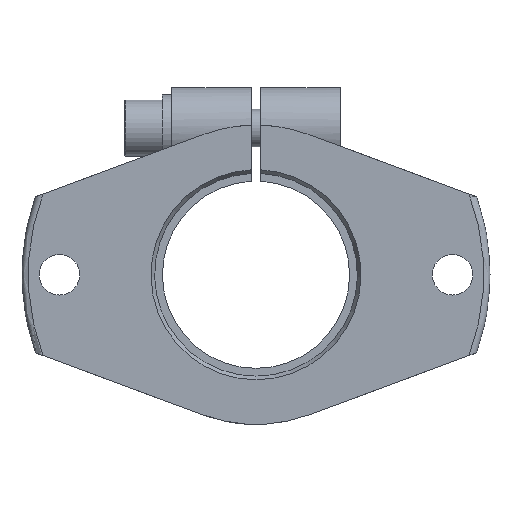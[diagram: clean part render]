
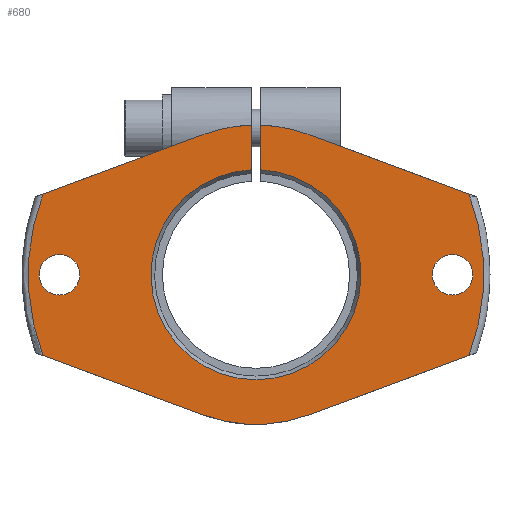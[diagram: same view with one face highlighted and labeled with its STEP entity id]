
A CAD part, left-side view. The second image highlights one B-rep face of the part: STEP entity #680.
In plain terms, the highlighted planar face has unit normal (-1, 0, 0).
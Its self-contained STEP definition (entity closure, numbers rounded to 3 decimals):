
#481=CARTESIAN_POINT('',(0.0,-68.246,-25.913));
#482=VERTEX_POINT('',#481);
#519=CARTESIAN_POINT('',(0.0,-68.246,25.913));
#520=VERTEX_POINT('',#519);
#549=CARTESIAN_POINT('',(0.0,0.0,0.0));
#550=DIRECTION('',(1.0,0.0,0.0));
#551=DIRECTION('',(0.0,-1.0,0.0));
#552=AXIS2_PLACEMENT_3D('',#549,#550,#551);
#553=CIRCLE('',#552,73.0);
#554=EDGE_CURVE('',#520,#482,#553,.T.);
#559=CARTESIAN_POINT('',(0.0,-45.434,0.));
#560=DIRECTION('',(1.0,0.0,0.0));
#561=DIRECTION('',(0.0,0.0,-1.0));
#562=AXIS2_PLACEMENT_3D('',#559,#560,#561);
#563=PLANE('',#562);
#564=ORIENTED_EDGE('',*,*,#554,.F.);
#565=CARTESIAN_POINT('',(0.0,-16.669,45.013));
#566=VERTEX_POINT('',#565);
#567=CARTESIAN_POINT('',(0.0,-16.669,45.013));
#568=DIRECTION('',(0.0,-0.938,-0.347));
#569=VECTOR('',#568,55.);
#570=LINE('',#567,#569);
#571=EDGE_CURVE('',#566,#520,#570,.T.);
#572=ORIENTED_EDGE('',*,*,#571,.F.);
#573=CARTESIAN_POINT('',(0.0,-1.5,47.977));
#574=VERTEX_POINT('',#573);
#575=CARTESIAN_POINT('',(0.0,0.0,0.0));
#576=DIRECTION('',(1.0,0.0,0.0));
#577=DIRECTION('',(0.0,1.0,0.0));
#578=AXIS2_PLACEMENT_3D('',#575,#576,#577);
#579=CIRCLE('',#578,48.);
#580=EDGE_CURVE('',#574,#566,#579,.T.);
#581=ORIENTED_EDGE('',*,*,#580,.F.);
#582=CARTESIAN_POINT('',(0.0,-1.5,33.621));
#583=VERTEX_POINT('',#582);
#584=CARTESIAN_POINT('',(0.0,-1.5,47.977));
#585=DIRECTION('',(0.0,0.0,-1.0));
#586=VECTOR('',#585,14.355);
#587=LINE('',#584,#586);
#588=EDGE_CURVE('',#574,#583,#587,.T.);
#589=ORIENTED_EDGE('',*,*,#588,.T.);
#590=CARTESIAN_POINT('',(0.0,1.5,33.621));
#591=VERTEX_POINT('',#590);
#592=CARTESIAN_POINT('',(0.0,0.0,0.0));
#593=DIRECTION('',(-1.0,0.0,0.0));
#594=DIRECTION('',(0.0,0.0,-1.0));
#595=AXIS2_PLACEMENT_3D('',#592,#593,#594);
#596=CIRCLE('',#595,33.655);
#597=EDGE_CURVE('',#591,#583,#596,.T.);
#598=ORIENTED_EDGE('',*,*,#597,.F.);
#599=CARTESIAN_POINT('',(0.0,1.5,47.977));
#600=VERTEX_POINT('',#599);
#601=CARTESIAN_POINT('',(0.0,1.5,33.621));
#602=DIRECTION('',(0.0,0.0,1.0));
#603=VECTOR('',#602,14.355);
#604=LINE('',#601,#603);
#605=EDGE_CURVE('',#591,#600,#604,.T.);
#606=ORIENTED_EDGE('',*,*,#605,.T.);
#607=CARTESIAN_POINT('',(0.0,16.669,45.013));
#608=VERTEX_POINT('',#607);
#609=CARTESIAN_POINT('',(0.0,0.0,0.0));
#610=DIRECTION('',(1.0,0.0,0.0));
#611=DIRECTION('',(0.0,1.0,0.0));
#612=AXIS2_PLACEMENT_3D('',#609,#610,#611);
#613=CIRCLE('',#612,48.);
#614=EDGE_CURVE('',#608,#600,#613,.T.);
#615=ORIENTED_EDGE('',*,*,#614,.F.);
#616=CARTESIAN_POINT('',(0.0,68.246,25.913));
#617=VERTEX_POINT('',#616);
#618=CARTESIAN_POINT('',(0.0,68.246,25.913));
#619=DIRECTION('',(0.0,-0.938,0.347));
#620=VECTOR('',#619,55.);
#621=LINE('',#618,#620);
#622=EDGE_CURVE('',#617,#608,#621,.T.);
#623=ORIENTED_EDGE('',*,*,#622,.F.);
#624=CARTESIAN_POINT('',(0.0,68.246,-25.913));
#625=VERTEX_POINT('',#624);
#626=CARTESIAN_POINT('',(0.0,0.0,0.0));
#627=DIRECTION('',(1.0,0.0,0.0));
#628=DIRECTION('',(0.0,1.0,0.0));
#629=AXIS2_PLACEMENT_3D('',#626,#627,#628);
#630=CIRCLE('',#629,73.0);
#631=EDGE_CURVE('',#625,#617,#630,.T.);
#632=ORIENTED_EDGE('',*,*,#631,.F.);
#633=CARTESIAN_POINT('',(0.0,16.669,-45.013));
#634=VERTEX_POINT('',#633);
#635=CARTESIAN_POINT('',(0.0,16.669,-45.013));
#636=DIRECTION('',(0.0,0.938,0.347));
#637=VECTOR('',#636,55.);
#638=LINE('',#635,#637);
#639=EDGE_CURVE('',#634,#625,#638,.T.);
#640=ORIENTED_EDGE('',*,*,#639,.F.);
#641=CARTESIAN_POINT('',(0.0,-16.669,-45.013));
#642=VERTEX_POINT('',#641);
#643=CARTESIAN_POINT('',(0.0,0.0,0.0));
#644=DIRECTION('',(1.0,0.0,0.0));
#645=DIRECTION('',(0.0,1.0,0.0));
#646=AXIS2_PLACEMENT_3D('',#643,#644,#645);
#647=CIRCLE('',#646,48.);
#648=EDGE_CURVE('',#642,#634,#647,.T.);
#649=ORIENTED_EDGE('',*,*,#648,.F.);
#650=CARTESIAN_POINT('',(0.0,-68.246,-25.913));
#651=DIRECTION('',(0.0,0.938,-0.347));
#652=VECTOR('',#651,55.);
#653=LINE('',#650,#652);
#654=EDGE_CURVE('',#482,#642,#653,.T.);
#655=ORIENTED_EDGE('',*,*,#654,.F.);
#656=EDGE_LOOP('',(#564,#572,#581,#589,#598,#606,#615,#623,#632,#640,#649,#655));
#657=FACE_OUTER_BOUND('',#656,.T.);
#658=CARTESIAN_POINT('',(0.0,-56.5,0.));
#659=VERTEX_POINT('',#658);
#660=CARTESIAN_POINT('',(0.0,-63.,0.));
#661=DIRECTION('',(1.0,0.0,0.0));
#662=DIRECTION('',(0.0,1.0,0.0));
#663=AXIS2_PLACEMENT_3D('',#660,#661,#662);
#664=CIRCLE('',#663,6.5);
#665=EDGE_CURVE('',#659,#659,#664,.T.);
#666=ORIENTED_EDGE('',*,*,#665,.T.);
#667=EDGE_LOOP('',(#666));
#668=FACE_BOUND('',#667,.T.);
#669=CARTESIAN_POINT('',(0.0,69.5,0.));
#670=VERTEX_POINT('',#669);
#671=CARTESIAN_POINT('',(0.0,63.,0.));
#672=DIRECTION('',(1.0,0.0,0.0));
#673=DIRECTION('',(0.0,1.0,0.0));
#674=AXIS2_PLACEMENT_3D('',#671,#672,#673);
#675=CIRCLE('',#674,6.5);
#676=EDGE_CURVE('',#670,#670,#675,.T.);
#677=ORIENTED_EDGE('',*,*,#676,.T.);
#678=EDGE_LOOP('',(#677));
#679=FACE_BOUND('',#678,.T.);
#680=ADVANCED_FACE('',(#657,#668,#679),#563,.F.);
